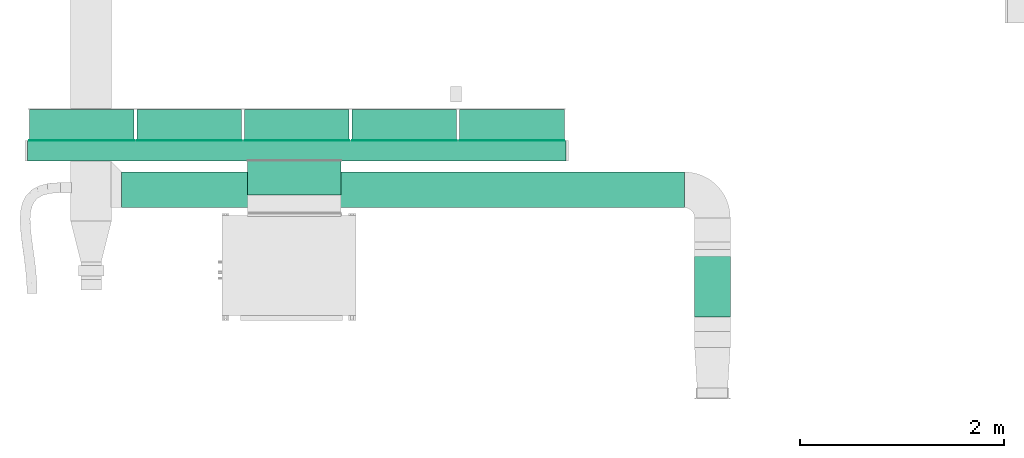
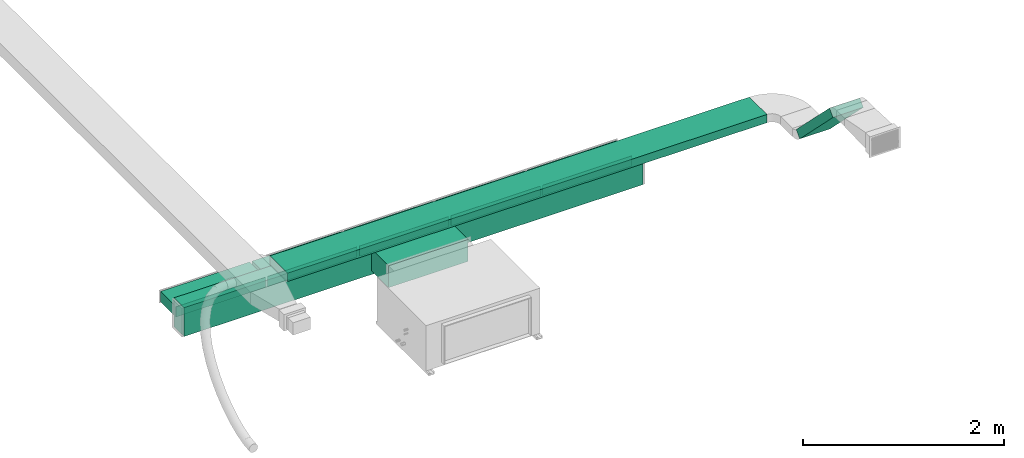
# One storey, part 1 of 15: 9 flow segments, 5 flow fittings.
"""IFC2X3 building model written with IfcOpenShell, lengths in millimetres."""

from ifc_helpers import new_model, entity, si_unit, converted_unit, derived_unit, direction, frame, frame_2d, origin, place, context, subcontext, project, spatial, polyline, rectangle, outline, extrude, source, transform, mapped, material, type_object, type_shapes, element, save


model = new_model("IFC2X3")

# Units and contexts
model_context = context("Model", 3, precision=0.01, world=origin(), true_north=direction((6.123233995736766e-17, 1.0)))
body_context = subcontext(model_context, "Body", "Model", "MODEL_VIEW")
ifc_project = project(units=[si_unit("LENGTHUNIT", "METRE", prefix="MILLI"), converted_unit("PLANEANGLEUNIT", "DEGREE", entity("IfcPlaneAngleMeasure", 0.017453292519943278), si_unit("PLANEANGLEUNIT", "RADIAN"), dimensions=[0, 0, 0, 0, 0, 0, 0]), si_unit("AREAUNIT", "SQUARE_METRE"), derived_unit("THERMALTRANSMITTANCEUNIT", [(si_unit("MASSUNIT", "GRAM", prefix="KILO"), 1), (si_unit("THERMODYNAMICTEMPERATUREUNIT", "KELVIN"), -1), (si_unit("TIMEUNIT", "SECOND"), -3)])], contexts=[model_context])

# Site, building, storey
site_placement = place(None, origin())
site = spatial("IfcSite", under=ifc_project, at=site_placement, Name="Default", CompositionType="ELEMENT")
building_placement = place(site_placement, origin())
building = spatial("IfcBuilding", under=site, at=building_placement, Name="Praça Pedro II, 1301 - Centro (Sul), Teresina - PI, 64001-100", CompositionType="ELEMENT")
storey_placement = place(building_placement, frame((0.0, 0.0, 3020.0)))
storey = spatial("IfcBuildingStorey", under=building, at=storey_placement, Name="1PAV", CompositionType="ELEMENT", Elevation=3020.0)

# Flow segments
duct_segment_type = type_object("IfcDuctSegmentType", Name="Duto retangular:Raios cotovelos / torneiras", PredefinedType="NOTDEFINED")
flow_segment_1_placement = place(storey_placement, origin())
element("IfcFlowSegment", 1, at=flow_segment_1_placement, inside=storey, type_object=duct_segment_type, Name="Duto retangular:Raios cotovelos / torneiras", ObjectType="Duto retangular:Raios cotovelos / torneiras", context=body_context, shape_type="SweptSolid", body=[
    extrude(rectangle(XDim=5277.361672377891, YDim=199.99999999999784, at=frame_2d((0.0, -4.334310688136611e-12), x_axis=(1.0, 0.0))), frame((8410.226790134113, -66034.01222456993, 825.0)), (0.0, 0.0, 1.0), 350.00000000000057),
])
flow_segment_2_placement = place(storey_placement, origin())
element("IfcFlowSegment", 2, at=flow_segment_2_placement, inside=storey, type_object=duct_segment_type, Name="Duto retangular:Raios cotovelos / torneiras", ObjectType="Duto retangular:Raios cotovelos / torneiras", context=body_context, shape_type="SweptSolid", body=[
    extrude(rectangle(XDim=301.1869710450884, YDim=1024.9999999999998, at=frame_2d((0.0, -5.684341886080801e-13), x_axis=(1.0, 0.0))), frame((6303.608548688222, -65782.41873904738, 937.5000000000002), z_axis=(0.0, 0.0, 1.0), x_axis=(0.0, -1.0, 0.0)), (0.0, 0.0, 1.0), 124.99999999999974),
])
flow_segment_3_placement = place(storey_placement, origin())
element("IfcFlowSegment", 3, at=flow_segment_3_placement, inside=storey, type_object=duct_segment_type, Name="Duto retangular:Raios cotovelos / torneiras", ObjectType="Duto retangular:Raios cotovelos / torneiras", context=body_context, shape_type="SweptSolid", body=[
    extrude(rectangle(XDim=301.1869710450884, YDim=1024.9999999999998, at=frame_2d((0.0, -5.684341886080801e-13), x_axis=(1.0, 0.0))), frame((7357.60853056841, -65782.41873904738, 937.5000000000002), z_axis=(0.0, 0.0, 1.0), x_axis=(0.0, -1.0, 0.0)), (0.0, 0.0, 1.0), 124.99999999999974),
])
flow_segment_4_placement = place(storey_placement, origin())
element("IfcFlowSegment", 4, at=flow_segment_4_placement, inside=storey, type_object=duct_segment_type, Name="Duto retangular:Raios cotovelos / torneiras", ObjectType="Duto retangular:Raios cotovelos / torneiras", context=body_context, shape_type="SweptSolid", body=[
    extrude(rectangle(XDim=301.1869710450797, YDim=1024.9999999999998, at=frame_2d((-4.334310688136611e-12, -5.684341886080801e-13), x_axis=(1.0, 0.0))), frame((8411.608512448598, -65782.41873904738, 937.5000000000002), z_axis=(0.0, 0.0, 1.0), x_axis=(0.0, -1.0, 0.0)), (0.0, 0.0, 1.0), 124.99999999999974),
])
flow_segment_5_placement = place(storey_placement, origin())
element("IfcFlowSegment", 5, at=flow_segment_5_placement, inside=storey, type_object=duct_segment_type, Name="Duto retangular:Raios cotovelos / torneiras", ObjectType="Duto retangular:Raios cotovelos / torneiras", context=body_context, shape_type="SweptSolid", body=[
    extrude(rectangle(XDim=301.1869710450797, YDim=1024.9999999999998, at=frame_2d((4.334310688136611e-12, -5.684341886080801e-13), x_axis=(1.0, 0.0))), frame((9465.608494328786, -65782.41873904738, 937.5000000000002), z_axis=(0.0, 0.0, 1.0), x_axis=(0.0, -1.0, 0.0)), (0.0, 0.0, 1.0), 124.99999999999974),
])
flow_segment_6_placement = place(storey_placement, origin())
element("IfcFlowSegment", 6, at=flow_segment_6_placement, inside=storey, type_object=duct_segment_type, Name="Duto retangular:Raios cotovelos / torneiras", ObjectType="Duto retangular:Raios cotovelos / torneiras", context=body_context, shape_type="SweptSolid", body=[
    extrude(rectangle(XDim=301.1869710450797, YDim=1025.000000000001, at=frame_2d((4.334310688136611e-12, 1.0800249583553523e-12), x_axis=(1.0, 0.0))), frame((10519.608476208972, -65782.41873904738, 937.5000000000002), z_axis=(0.0, 0.0, 1.0), x_axis=(0.0, -1.0, 0.0)), (0.0, 0.0, 1.0), 124.99999999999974),
])
flow_segment_7_placement = place(storey_placement, origin())
element("IfcFlowSegment", 7, at=flow_segment_7_placement, inside=storey, type_object=duct_segment_type, Name="Duto retangular:Raios cotovelos / torneiras", ObjectType="Duto retangular:Raios cotovelos / torneiras", context=body_context, shape_type="SweptSolid", body=[
    extrude(rectangle(XDim=5513.7509871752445, YDim=349.9999999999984, at=frame_2d((0.0, 4.334310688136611e-12), x_axis=(1.0, 0.0))), frame((9452.226241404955, -66419.15712386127, 1450.0)), (0.0, 0.0, 1.0), 100.0),
])
flow_segment_8_placement = place(storey_placement, origin())
element("IfcFlowSegment", 8, at=flow_segment_8_placement, inside=storey, type_object=duct_segment_type, Name="Duto retangular:Raios cotovelos / torneiras", ObjectType="Duto retangular:Raios cotovelos / torneiras", context=body_context, shape_type="SweptSolid", body=[
    extrude(rectangle(XDim=100.00000000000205, YDim=349.9999999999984, at=frame_2d((1.9539925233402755e-13, 0.0), x_axis=(1.0, 0.0))), frame((12484.101734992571, -67037.19109130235, 1543.9339828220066), z_axis=(0.0, -0.7071067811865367, 0.7071067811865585), x_axis=(0.0, 0.7071067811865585, 0.7071067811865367)), (0.0, 0.0, 1.0), 936.3961030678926),
])
flow_segment_9_placement = place(storey_placement, origin())
element("IfcFlowSegment", 9, at=flow_segment_9_placement, inside=storey, type_object=duct_segment_type, Name="Duto retangular:Raios cotovelos / torneiras", ObjectType="Duto retangular:Raios cotovelos / torneiras", context=body_context, shape_type="SweptSolid", body=[
    extrude(rectangle(XDim=333.9999999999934, YDim=916.9999999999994, at=frame_2d((-8.668621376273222e-12, 0.0), x_axis=(1.0, 0.0))), frame((8386.996797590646, -66302.01222456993, 866.0), z_axis=(0.0, 0.0, 1.0), x_axis=(0.0, -1.0, 0.0)), (0.0, 0.0, 1.0), 267.9999999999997),
])

# Flow fittings
ifc_material = material(Name="<Unnamed>")
duct_fitting_type = type_object("IfcDuctFittingType", Name="M_Rectangular Tap - Beveled:Standard", PredefinedType="NOTDEFINED", material=ifc_material)
shared_shape = source(origin(), body_context, "Body", "SweptSolid", [
    extrude(outline(polyline([(-615.4000000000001, -3.0384000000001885), (409.59999999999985, -3.0384000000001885), (410.6000000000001, -2.0384000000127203), (410.6000000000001, 4.057600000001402), (-615.4000000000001, 4.0575999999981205), (-615.4000000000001, -3.0384000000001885)])), frame((-2.038399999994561, 102.90000000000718, -62.49999999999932), z_axis=(0.0, 0.0, 1.0), x_axis=(0.0, 1.0, 0.0)), (0.0, 0.0, 1.0), 124.99999999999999),
])
type_shapes(duct_fitting_type, [shared_shape])
for number, where, z_axis, x_axis, name in (
    (10, (10519.608476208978, -65934.01222456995, 1000.0), (0.0, 0.0, -1.0), (0.0, 1.0, 0.0), "M_Rectangular Tap - Beveled:Standard"),
    (11, (9465.608494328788, -65934.01222456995, 1000.0), (0.0, 0.0, -1.0), (0.0, 1.0, 0.0), "M_Rectangular Tap - Beveled:Standard"),
    (12, (8411.6085124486, -65934.01222456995, 1000.0), (0.0, 0.0, -1.0), (0.0, 1.0, 0.0), "M_Rectangular Tap - Beveled:Standard"),
    (13, (7357.608530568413, -65934.01222456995, 1000.0), (0.0, 0.0, -1.0), (0.0, 1.0, 0.0), "M_Rectangular Tap - Beveled:Standard"),
    (14, (6303.608548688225, -65934.01222456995, 1000.0), (0.0, 0.0, -1.0), (0.0, 1.0, 0.0), "M_Rectangular Tap - Beveled:Standard"),
):
    element("IfcFlowFitting", number, at=place(storey_placement, frame(where, z_axis=z_axis, x_axis=x_axis)), inside=storey, type_object=duct_fitting_type, material=ifc_material, Name=name, ObjectType="M_Rectangular Tap - Beveled:Standard", context=body_context, shape_type="MappedRepresentation", body=[
        mapped(shared_shape, transform((0.0, 0.0, 0.0), scale=1.0)),
    ])

save(model, "model.ifc")
